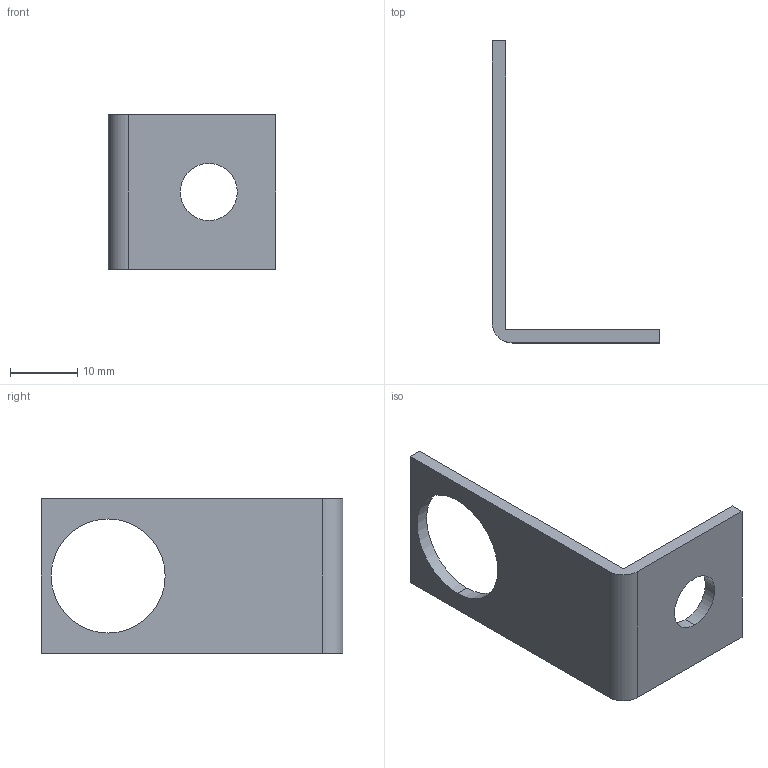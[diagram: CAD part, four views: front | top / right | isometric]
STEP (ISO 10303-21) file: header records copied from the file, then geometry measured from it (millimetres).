
FILE_DESCRIPTION (( 'STEP AP214' ), '1' );
FILE_NAME ('Silvent 3302.STEP', '2008-11-11T07:27:44', ( ' ' ), ( '' ), 'SwSTEP 2.0', 'SolidWorks 2005278', '' );
FILE_SCHEMA (( 'AUTOMOTIVE_DESIGN' ));
Length unit declared in the file: millimetre
Products named in the file (1): Silvent 3302
Bounding box: 25 x 45 x 23 mm (x, y, z)
Volume: 2516.1 mm3; surface area: 3051.3 mm2
Topology: 1 solids, 1 shells, 13 faces, 33 edges, 22 vertices
Faces by surface type: plane 8, cylinder 5
Entity records: 428 total; most frequent: DIRECTION 71, CARTESIAN_POINT 69, ORIENTED_EDGE 66, EDGE_CURVE 33, AXIS2_PLACEMENT_3D 24, VECTOR 23, LINE 23, VERTEX_POINT 22
